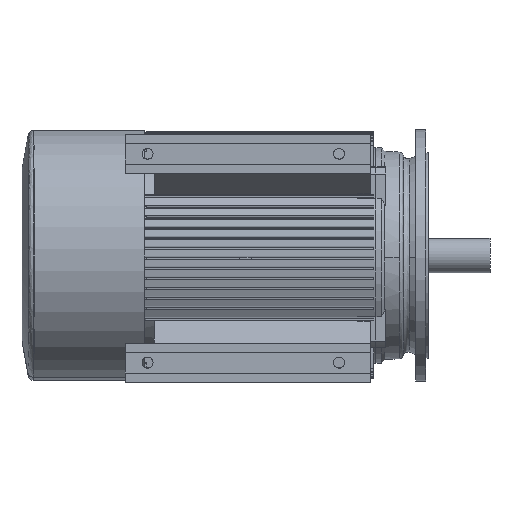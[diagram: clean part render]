
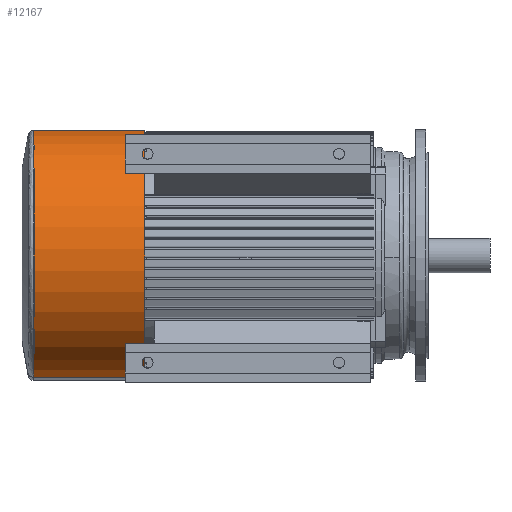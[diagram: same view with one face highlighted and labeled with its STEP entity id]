
A CAD part, front view. The second image highlights one B-rep face of the part: STEP entity #12167.
In plain terms, the highlighted cylindrical face has radius 273.5 mm (diameter 547 mm), a partial arc.
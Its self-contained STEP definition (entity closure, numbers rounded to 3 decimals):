
#370 = VERTEX_POINT ( 'NONE', #12975 ) ;
#401 = VERTEX_POINT ( 'NONE', #13072 ) ;
#407 = VERTEX_POINT ( 'NONE', #13061 ) ;
#931 = VERTEX_POINT ( 'NONE', #13663 ) ;
#1091 = LINE ( 'NONE', #7595, #1133 ) ;
#1095 = CIRCLE ( 'NONE', #3778, 273.5 ) ;
#1110 = CIRCLE ( 'NONE', #3776, 273.5 ) ;
#1133 = VECTOR ( 'NONE', #7572, 1000. ) ;
#1170 = LINE ( 'NONE', #20683, #1206 ) ;
#1206 = VECTOR ( 'NONE', #20750, 1000. ) ;
#2922 = EDGE_CURVE ( 'NONE', #931, #407, #1091, .T. ) ;
#2927 = EDGE_CURVE ( 'NONE', #370, #931, #1110, .T. ) ;
#2928 = EDGE_CURVE ( 'NONE', #407, #401, #1095, .T. ) ;
#2992 = EDGE_CURVE ( 'NONE', #370, #401, #1170, .T. ) ;
#3776 = AXIS2_PLACEMENT_3D ( 'NONE', #7601, #7588, #7602 ) ;
#3778 = AXIS2_PLACEMENT_3D ( 'NONE', #7589, #7573, #7577 ) ;
#3883 = AXIS2_PLACEMENT_3D ( 'NONE', #23580, #23576, #23604 ) ;
#5858 = FACE_OUTER_BOUND ( 'NONE', #18733, .T. ) ;
#5863 = CYLINDRICAL_SURFACE ( 'NONE', #3883, 273.5 ) ;
#7572 = DIRECTION ( 'NONE',  ( -1., 0., 0. ) ) ;
#7573 = DIRECTION ( 'NONE',  ( 1., 0., 0. ) ) ;
#7577 = DIRECTION ( 'NONE',  ( 0., 0., 1. ) ) ;
#7588 = DIRECTION ( 'NONE',  ( -1., 0., 0. ) ) ;
#7589 = CARTESIAN_POINT ( 'NONE',  ( 0., 0., 0. ) ) ;
#7595 = CARTESIAN_POINT ( 'NONE',  ( -98.835, 0., -273.5 ) ) ;
#7601 = CARTESIAN_POINT ( 'NONE',  ( 242.777, 0., 0. ) ) ;
#7602 = DIRECTION ( 'NONE',  ( 0., 0., 1. ) ) ;
#10627 = ORIENTED_EDGE ( 'NONE', *, *, #2927, .T. ) ;
#10691 = ORIENTED_EDGE ( 'NONE', *, *, #2992, .F. ) ;
#10718 = ORIENTED_EDGE ( 'NONE', *, *, #2922, .T. ) ;
#10732 = ORIENTED_EDGE ( 'NONE', *, *, #2928, .T. ) ;
#12167 = ADVANCED_FACE ( 'NONE', ( #5858 ), #5863, .T. ) ;
#12975 = CARTESIAN_POINT ( 'NONE',  ( 242.777, 0., 273.5 ) ) ;
#13061 = CARTESIAN_POINT ( 'NONE',  ( 0., 0., -273.5 ) ) ;
#13072 = CARTESIAN_POINT ( 'NONE',  ( 0., 0., 273.5 ) ) ;
#13663 = CARTESIAN_POINT ( 'NONE',  ( 242.777, 0., -273.5 ) ) ;
#18733 = EDGE_LOOP ( 'NONE', ( #10627, #10718, #10732, #10691 ) ) ;
#20683 = CARTESIAN_POINT ( 'NONE',  ( -98.835, 0., 273.5 ) ) ;
#20750 = DIRECTION ( 'NONE',  ( -1., 0., 0. ) ) ;
#23576 = DIRECTION ( 'NONE',  ( -1., 0., 0. ) ) ;
#23580 = CARTESIAN_POINT ( 'NONE',  ( -98.835, 0., 0. ) ) ;
#23604 = DIRECTION ( 'NONE',  ( 0., 0., 1. ) ) ;
